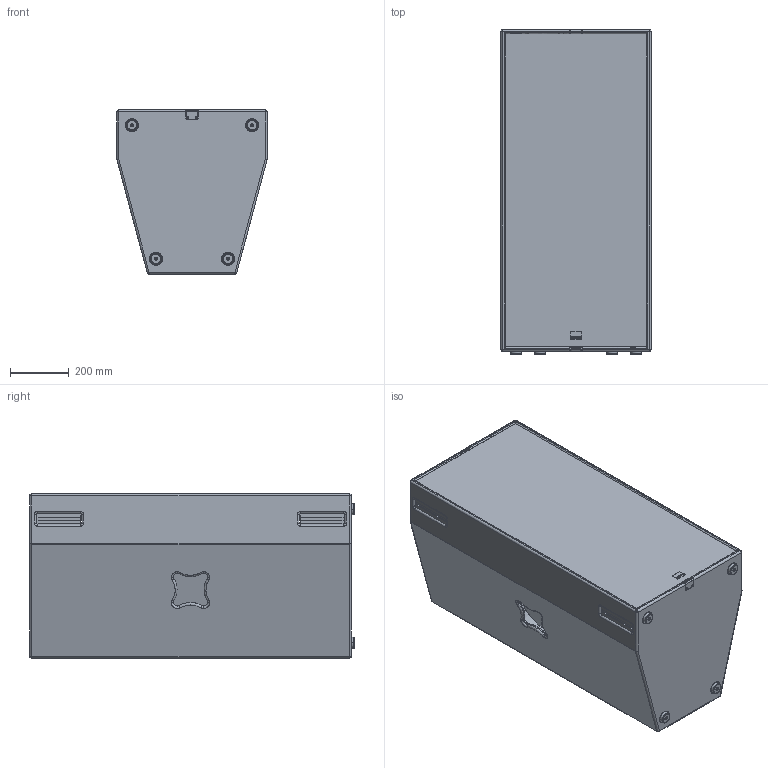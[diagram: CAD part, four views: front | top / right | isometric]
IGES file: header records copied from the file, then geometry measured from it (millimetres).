
Start section: SolidWorks IGES file using analytic representation for surfaces
Global section: file name: C:\Dokumente und Einstellungen\PC_Fabian\Desktop\K-Serie\Seeburg_K22.IGS; native system: SolidWorks 2009; preprocessor: SolidWorks 2009; author: PC_Fabian; date: 121016.140333; units: millimetre
Bounding box: 512 x 1108 x 560 mm (x, y, z)
Surface area: 5443594.8 mm2 (no closed solid volume)
Topology: 0 solids, 0 shells, 752 faces, 8157 edges, 8153 vertices
Faces by surface type: bspline 428, revolution 324
